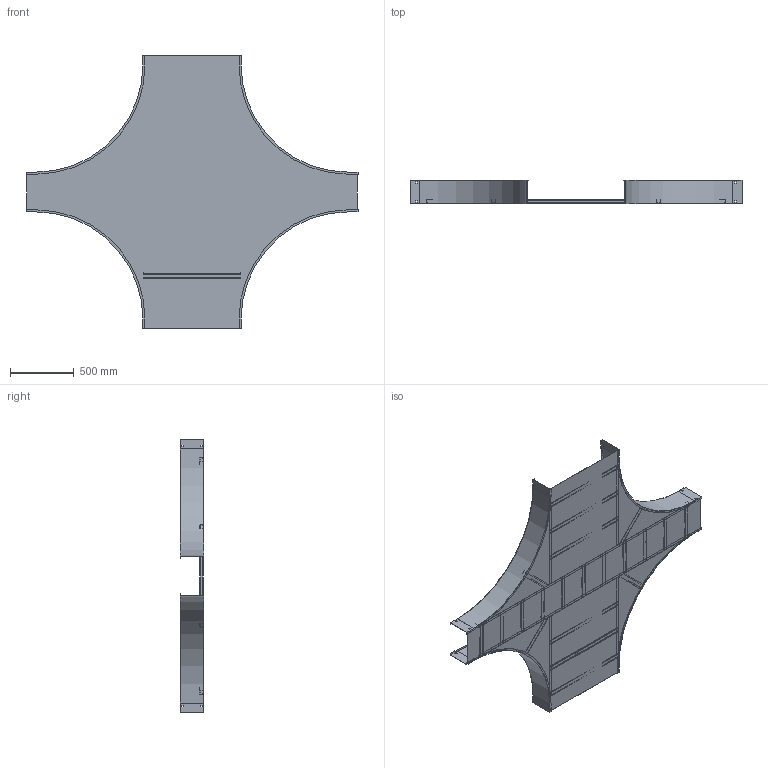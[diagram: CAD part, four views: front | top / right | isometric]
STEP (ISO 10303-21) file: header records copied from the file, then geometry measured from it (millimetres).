
FILE_DESCRIPTION((''),'2;1');
FILE_NAME('AUF71230SEX36_ASM','2010-02-01T',('erouzier'),(''),'PRO/ENGINEER BY PARAMETRIC TECHNOLOGY CORPORATION, 2008510','PRO/ENGINEER BY PARAMETRIC TECHNOLOGY CORPORATION, 2008510','');
FILE_SCHEMA(('CONFIG_CONTROL_DESIGN'));
Length unit declared in the file: inch
Products named in the file (25): CDS001322-7-90-33-I; CDS002159L12_AF16; CDS002159L12_AF17; CDS002159L12_AF18; CDS002159L12_AF19; CDS002159L12_AF25; CDS002159L12_AF20; CDS002159L12_AF21; CDS002159L12_AF22; CDS002159L12_AF24; CDS002159L12_AF26; CDS002159L12_AF23; CDS000495_GEN_AF18; CDS000495_GEN_AF19; CDS000495_GEN_AF22; CDS000495_GEN_AF23; CDS000495_GEN_AF20; CDS000495_GEN_AF21; CDS002159L18_AF6; CDS002159L18_AF7; CDS002159L18_AF4; CDS002159L18_AF5; CDS002159L30; CDS005034-12-36-30; AUF71230SEX36_ASM
Assembly tree (32 placements, depth 2):
  AUF71230SEX36_ASM
    CDS001322-7-90-33-I  x4
    CDS002159L12_AF16
    CDS002159L12_AF17
    CDS002159L12_AF18
    CDS002159L12_AF19
    CDS002159L12_AF25
    CDS002159L12_AF20
    CDS002159L12_AF21
    CDS002159L12_AF22
    CDS002159L12_AF24
    CDS002159L12_AF26
    CDS002159L12_AF23
    CDS000495_GEN_AF18
    CDS000495_GEN_AF19
    CDS000495_GEN_AF22
    CDS000495_GEN_AF23
    CDS000495_GEN_AF20
    CDS000495_GEN_AF21
    CDS002159L18_AF6
    CDS002159L18_AF7
    CDS002159L18_AF4
    CDS002159L18_AF5
    CDS002159L30  x6
    CDS005034-12-36-30
Bounding box: 2596.39 x 183.9 x 2139.19 mm (x, y, z)
Volume: 8830855.5 mm3; surface area: 11302253.7 mm2
Topology: 32 solids, 32 shells, 844 faces, 2340 edges, 1560 vertices
Faces by surface type: plane 593, cylinder 251
Entity records: 19685 total; most frequent: CARTESIAN_POINT 3713, ORIENTED_EDGE 3264, DIRECTION 3210, EDGE_CURVE 1632, VECTOR 1264, LINE 1264, VERTEX_POINT 1088, AXIS2_PLACEMENT_3D 973
